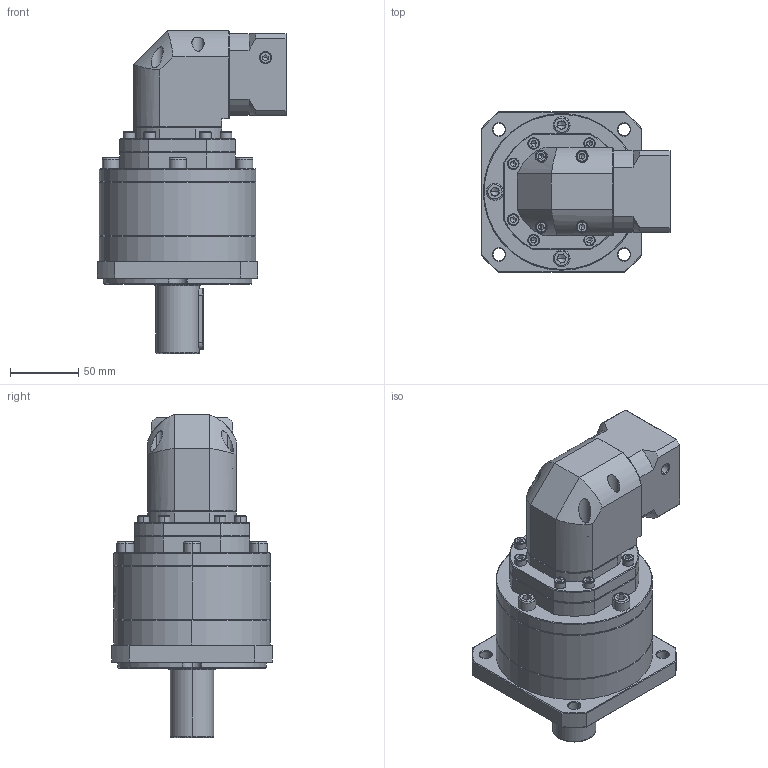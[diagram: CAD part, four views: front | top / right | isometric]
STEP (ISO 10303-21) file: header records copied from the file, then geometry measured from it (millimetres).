
FILE_DESCRIPTION (( 'STEP AP214' ), '1' );
FILE_NAME ('ZFR120A-D32-L3-P2-11-50-70-M5.step', '2023-08-27T09:49:21', ( '' ), ( '' ), 'SwSTEP 2.0', 'SolidWorks 2016', '' );
FILE_SCHEMA (( 'AUTOMOTIVE_DESIGN' ));
Length unit declared in the file: millimetre
Products named in the file (1): ZFR120A-D32-L3-P2-11-50-70-M5
Bounding box: 139.2 x 118 x 237.5 mm (x, y, z)
Volume: 1482876.1 mm3; surface area: 140695.8 mm2
Topology: 6 solids, 6 shells, 2435 faces, 6488 edges, 4169 vertices
Faces by surface type: plane 1172, cylinder 462, bspline 435, cone 346, torus 20
Entity records: 129667 total; most frequent: CARTESIAN_POINT 47602, ORIENTED_EDGE 12868, DIRECTION 9671, EDGE_CURVE 6434, VERTEX_POINT 4169, VECTOR 3419, LINE 3419, AXIS2_PLACEMENT_3D 3126
